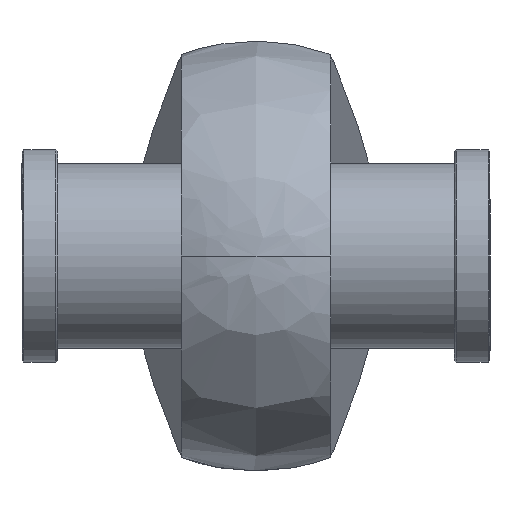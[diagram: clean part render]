
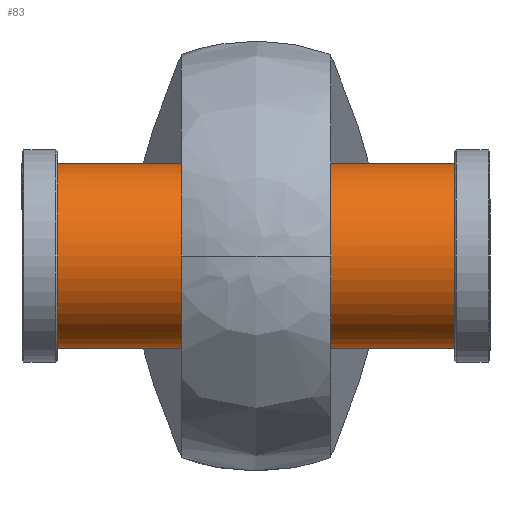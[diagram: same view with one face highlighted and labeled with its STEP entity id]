
A CAD part, left-side view. The second image highlights one B-rep face of the part: STEP entity #83.
In plain terms, the highlighted cylindrical face has radius 26 mm (diameter 52 mm), a full revolution.
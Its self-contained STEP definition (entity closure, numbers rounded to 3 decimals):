
#83=ADVANCED_FACE('',(#157),#1209,.T.);
#157=FACE_OUTER_BOUND('',#238,.T.);
#238=EDGE_LOOP('',(#506,#507,#508,#509));
#506=ORIENTED_EDGE('',*,*,#772,.T.);
#507=ORIENTED_EDGE('',*,*,#774,.T.);
#508=ORIENTED_EDGE('',*,*,#773,.T.);
#509=ORIENTED_EDGE('',*,*,#774,.F.);
#772=EDGE_CURVE('',#1124,#1124,#980,.T.);
#773=EDGE_CURVE('',#1125,#1125,#981,.T.);
#774=EDGE_CURVE('',#1124,#1125,#894,.T.);
#894=B_SPLINE_CURVE_WITH_KNOTS('',1,(#2243,#2244),.UNSPECIFIED.,.F.,.F.,
(2,2),(11.297,123.072),.UNSPECIFIED.);
#980=(
BOUNDED_CURVE()
B_SPLINE_CURVE(2,(#2225,#2226,#2227,#2228,#2229,#2230,#2231,#2232,#2233),
 .UNSPECIFIED.,.T.,.F.)
B_SPLINE_CURVE_WITH_KNOTS((3,2,2,2,3),(0.,40.841,81.681,
122.522,163.363),.UNSPECIFIED.)
CURVE()
GEOMETRIC_REPRESENTATION_ITEM()
RATIONAL_B_SPLINE_CURVE((1.,0.707,1.,0.707,1.,0.707,
1.,0.707,1.))
REPRESENTATION_ITEM('')
);
#981=(
BOUNDED_CURVE()
B_SPLINE_CURVE(2,(#2234,#2235,#2236,#2237,#2238,#2239,#2240,#2241,#2242),
 .UNSPECIFIED.,.T.,.F.)
B_SPLINE_CURVE_WITH_KNOTS((3,2,2,2,3),(0.,40.841,81.681,
122.522,163.363),.UNSPECIFIED.)
CURVE()
GEOMETRIC_REPRESENTATION_ITEM()
RATIONAL_B_SPLINE_CURVE((1.,0.707,1.,0.707,1.,0.707,
1.,0.707,1.))
REPRESENTATION_ITEM('')
);
#1124=VERTEX_POINT('',#2177);
#1125=VERTEX_POINT('',#2178);
#1209=CYLINDRICAL_SURFACE('',#1361,26.);
#1361=AXIS2_PLACEMENT_3D('',#2167,#1407,$);
#1407=DIRECTION('',(0.,-1.,0.));
#2167=CARTESIAN_POINT('',(0.,0.,0.));
#2177=CARTESIAN_POINT('',(26.,55.887,0.));
#2178=CARTESIAN_POINT('',(26.,-55.887,0.));
#2225=CARTESIAN_POINT('',(26.,55.887,0.));
#2226=CARTESIAN_POINT('',(26.,55.887,26.));
#2227=CARTESIAN_POINT('',(0.,55.887,26.));
#2228=CARTESIAN_POINT('',(-26.,55.887,26.));
#2229=CARTESIAN_POINT('',(-26.,55.887,0.));
#2230=CARTESIAN_POINT('',(-26.,55.887,-26.));
#2231=CARTESIAN_POINT('',(0.,55.887,-26.));
#2232=CARTESIAN_POINT('',(26.,55.887,-26.));
#2233=CARTESIAN_POINT('',(26.,55.887,0.));
#2234=CARTESIAN_POINT('',(26.,-55.887,0.));
#2235=CARTESIAN_POINT('',(26.,-55.887,-26.));
#2236=CARTESIAN_POINT('',(0.,-55.887,-26.));
#2237=CARTESIAN_POINT('',(-26.,-55.887,-26.));
#2238=CARTESIAN_POINT('',(-26.,-55.887,0.));
#2239=CARTESIAN_POINT('',(-26.,-55.887,26.));
#2240=CARTESIAN_POINT('',(0.,-55.887,26.));
#2241=CARTESIAN_POINT('',(26.,-55.887,26.));
#2242=CARTESIAN_POINT('',(26.,-55.887,0.));
#2243=CARTESIAN_POINT('',(26.,55.887,0.));
#2244=CARTESIAN_POINT('',(26.,-55.887,0.));
